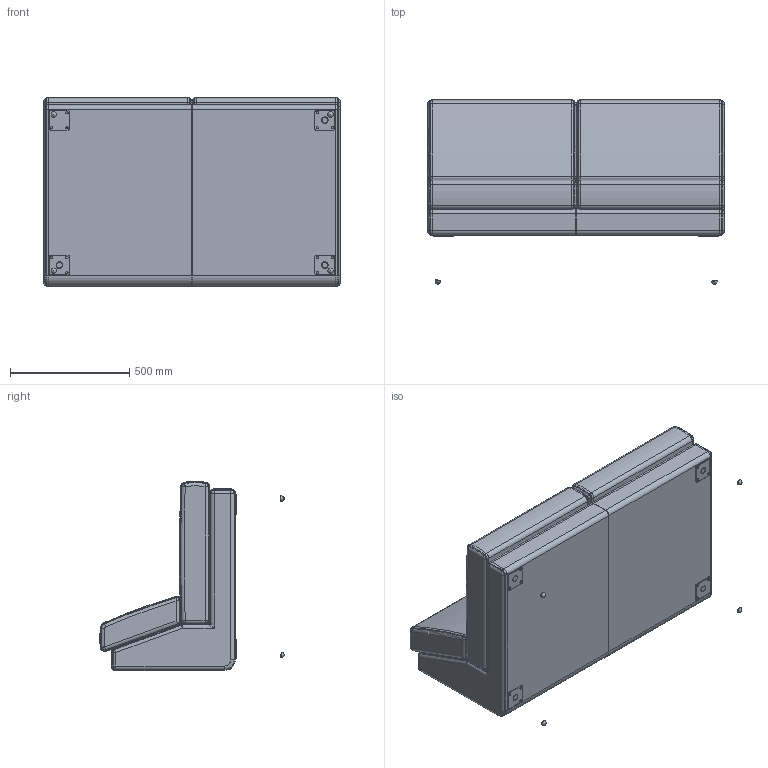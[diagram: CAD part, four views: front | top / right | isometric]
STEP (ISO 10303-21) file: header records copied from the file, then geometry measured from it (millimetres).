
FILE_DESCRIPTION(/* description */ (''),/* implementation_level */ '2;1');
FILE_NAME(/* name */ '9102.step',/* time_stamp */ '2026-07-29T13:59:27-07:00',/* author */ (''),/* organization */ (''),/* preprocessor_version */ 'ST-DEVELOPER v20.1',/* originating_system */ 'Autodesk Translation Framework v15.8.0.0',/* authorisation */ '');
FILE_SCHEMA (('AUTOMOTIVE_DESIGN { 1 0 10303 214 3 1 1 }'));
Length unit declared in the file: inch
Products named in the file (1): 2026-06-05-14-04-39-452
Bounding box: 1244.6 x 773.05 x 793.38 mm (x, y, z)
Volume: 326753758.2 mm3; surface area: 8647845.2 mm2
Topology: 30 solids, 30 shells, 662 faces, 1424 edges, 812 vertices
Faces by surface type: cylinder 232, torus 182, plane 104, bspline 76, sphere 60, cone 8
Full cylindrical faces by diameter (mm): 9.525 x12
Entity records: 20727 total; most frequent: CARTESIAN_POINT 6158, DIRECTION 3376, ORIENTED_EDGE 2828, AXIS2_PLACEMENT_3D 1483, EDGE_CURVE 1414, CIRCLE 856, VERTEX_POINT 812, EDGE_LOOP 694
